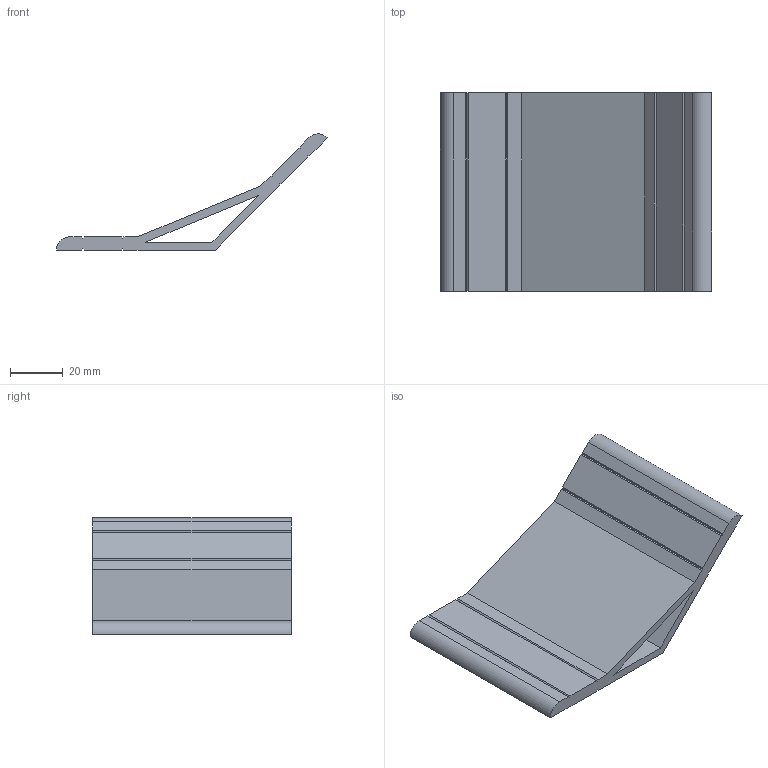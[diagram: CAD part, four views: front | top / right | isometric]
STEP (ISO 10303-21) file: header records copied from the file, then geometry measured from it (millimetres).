
FILE_DESCRIPTION(/* description */ ('Unknown'),/* implementation_level */ '2;1');
FILE_NAME(/* name */ 'NMV60135',/* time_stamp */ '2026-09-02T13:06:14+08:00',/* author */ ('Unknown'),/* organization */ ('Unknown'),/* preprocessor_version */ 'ST-DEVELOPER v16.7',/* originating_system */ 'DEX',/* authorisation */ $);
FILE_SCHEMA (('AUTOMOTIVE_DESIGN {1 0 10303 214 3 1 1}'));
Length unit declared in the file: millimetre
Products named in the file (1): NMV60135
Bounding box: 102.43 x 75 x 43.87 mm (x, y, z)
Volume: 46288.5 mm3; surface area: 26504.5 mm2
Topology: 1 solids, 1 shells, 36 faces, 102 edges, 68 vertices
Faces by surface type: plane 34, cylinder 2
Entity records: 1184 total; most frequent: CARTESIAN_POINT 207, ORIENTED_EDGE 204, DIRECTION 180, EDGE_CURVE 102, LINE 98, VECTOR 98, VERTEX_POINT 68, AXIS2_PLACEMENT_3D 41
